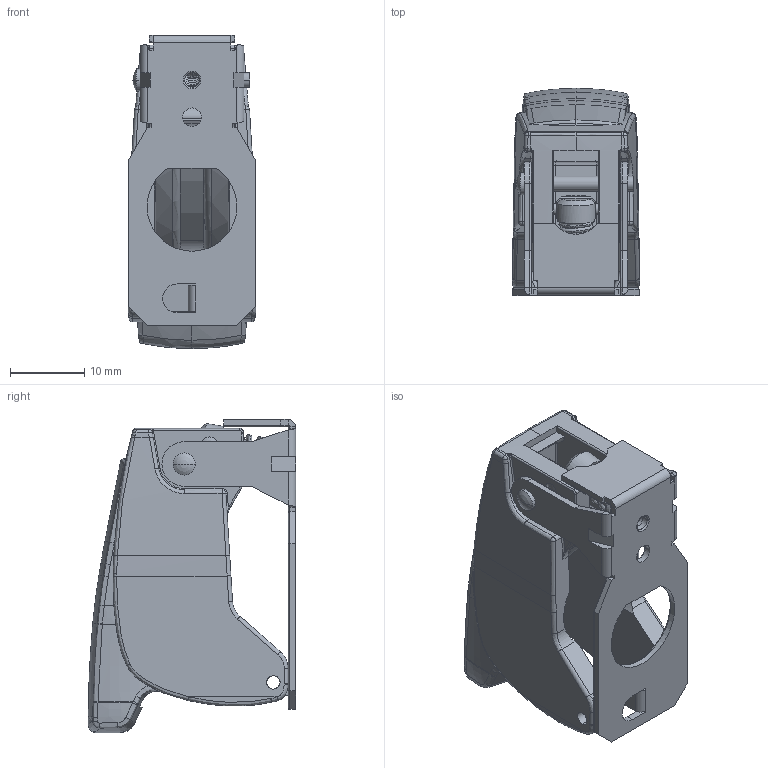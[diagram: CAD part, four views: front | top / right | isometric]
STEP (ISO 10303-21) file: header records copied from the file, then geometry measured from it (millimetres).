
FILE_DESCRIPTION((''),'2;1');
FILE_NAME('MSG22FN_','2016-07-04T',('jretegui'),(''),'CREO PARAMETRIC BY PTC INC, 2015380','CREO PARAMETRIC BY PTC INC, 2015380','');
FILE_SCHEMA(('CONFIG_CONTROL_DESIGN'));
Length unit declared in the file: millimetre
Products named in the file (1): MSG22FN_
Bounding box: 17.16 x 27.9 x 42.15 mm (x, y, z)
Surface area: 6517.9 mm2 (no closed solid volume)
Topology: 0 solids, 9 shells, 632 faces, 1643 edges, 1018 vertices
Faces by surface type: plane 263, cylinder 165, bspline 136, torus 28, cone 19, extrusion 11, sphere 10
Entity records: 30420 total; most frequent: CARTESIAN_POINT 16287, ORIENTED_EDGE 3173, DIRECTION 2461, EDGE_CURVE 1634, VERTEX_POINT 1018, VECTOR 869, LINE 858, AXIS2_PLACEMENT_3D 796
